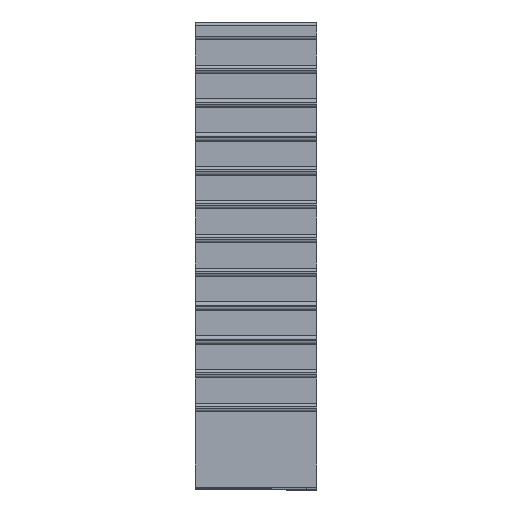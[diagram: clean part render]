
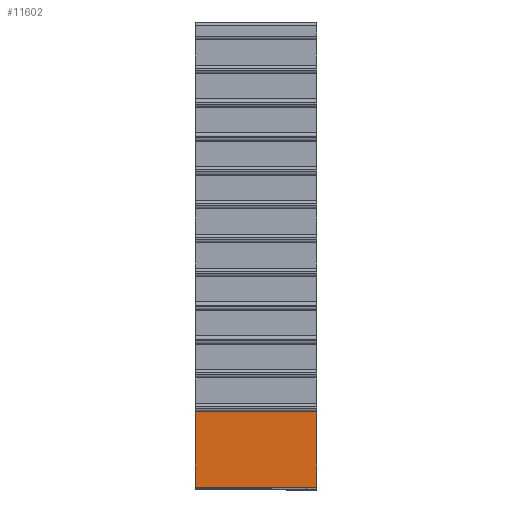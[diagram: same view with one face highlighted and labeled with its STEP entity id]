
A CAD part, top view. The second image highlights one B-rep face of the part: STEP entity #11602.
In plain terms, the highlighted planar face has unit normal (0, 0, 1).
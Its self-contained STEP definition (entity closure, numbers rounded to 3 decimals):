
#1697=DIRECTION('',(0.,-1.,0.));
#1698=VECTOR('',#1697,4.45);
#1699=CARTESIAN_POINT('',(0.,4.45,
-0.5));
#1700=LINE('',#1699,#1698);
#2925=DIRECTION('',(0.,-1.,0.));
#2926=VECTOR('',#2925,4.45);
#2927=CARTESIAN_POINT('',(7.2,4.45,-0.5));
#2928=LINE('',#2927,#2926);
#2929=DIRECTION('',(-1.,0.,0.));
#2930=VECTOR('',#2929,7.2);
#2931=CARTESIAN_POINT('',(7.2,0.,-0.5));
#2932=LINE('',#2931,#2930);
#2937=DIRECTION('',(-1.,0.,0.));
#2938=VECTOR('',#2937,7.2);
#2939=CARTESIAN_POINT('',(7.2,4.45,-0.5));
#2940=LINE('',#2939,#2938);
#7227=CARTESIAN_POINT('',(0.,0.,
-0.5));
#7229=VERTEX_POINT('',#7227);
#7230=CARTESIAN_POINT('',(7.2,0.,-0.5));
#7231=VERTEX_POINT('',#7230);
#7532=CARTESIAN_POINT('',(0.,4.45,
-0.5));
#7533=VERTEX_POINT('',#7532);
#7908=CARTESIAN_POINT('',(7.2,4.45,-0.5));
#7909=VERTEX_POINT('',#7908);
#11590=CARTESIAN_POINT('',(0.,0.,
-0.5));
#11591=DIRECTION('',(0.,0.,-1.));
#11592=DIRECTION('',(-1.,0.,0.));
#11593=AXIS2_PLACEMENT_3D('',#11590,#11591,#11592);
#11594=PLANE('',#11593);
#11595=ORIENTED_EDGE('',*,*,#11439,.T.);
#11596=ORIENTED_EDGE('',*,*,#9536,.T.);
#11597=ORIENTED_EDGE('',*,*,#9854,.F.);
#11599=ORIENTED_EDGE('',*,*,#11598,.F.);
#11600=EDGE_LOOP('',(#11595,#11596,#11597,#11599));
#11601=FACE_OUTER_BOUND('',#11600,.F.);
#11602=ADVANCED_FACE('',(#11601),#11594,.F.);
#9536=EDGE_CURVE('',#7231,#7229,#2932,.T.);
#9854=EDGE_CURVE('',#7533,#7229,#1700,.T.);
#11439=EDGE_CURVE('',#7909,#7231,#2928,.T.);
#11598=EDGE_CURVE('',#7909,#7533,#2940,.T.);
